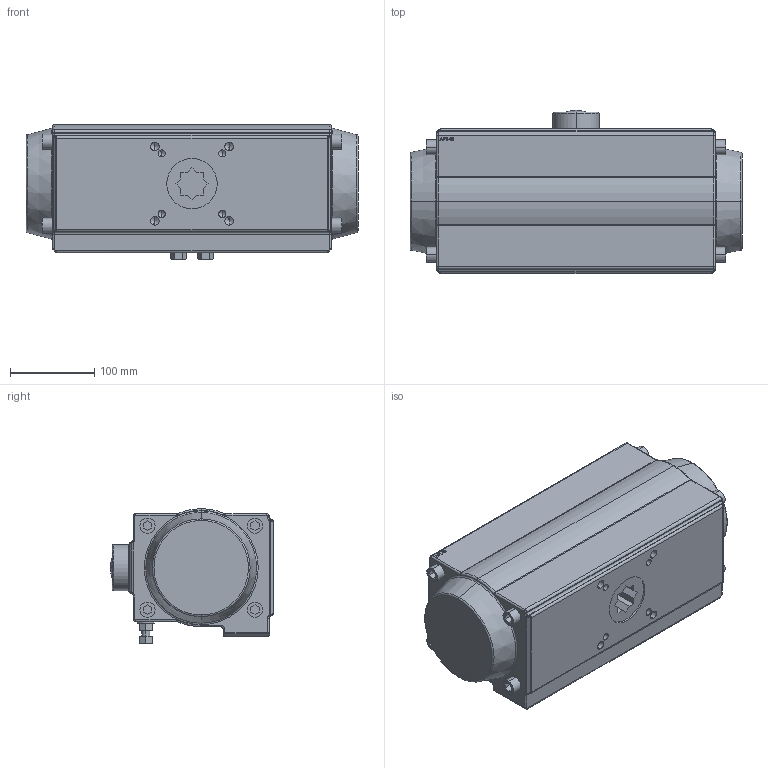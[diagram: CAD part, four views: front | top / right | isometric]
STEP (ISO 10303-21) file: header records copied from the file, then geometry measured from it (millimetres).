
FILE_DESCRIPTION (( 'STEP AP203' ), '1' );
FILE_NAME ('AP140.STEP', '2020-04-08T11:54:30', ( '' ), ( '' ), 'SwSTEP 2.0', 'SolidWorks 2017', '' );
FILE_SCHEMA (( 'CONFIG_CONTROL_DESIGN' ));
Length unit declared in the file: millimetre
Products named in the file (1): AP140
Bounding box: 395 x 194 x 160.2 mm (x, y, z)
Volume: 8474977.7 mm3; surface area: 292207.5 mm2
Topology: 1 solids, 1 shells, 503 faces, 1194 edges, 715 vertices
Faces by surface type: plane 213, cylinder 126, cone 68, bspline 44, torus 38, sphere 14
Entity records: 16177 total; most frequent: CARTESIAN_POINT 4921, ORIENTED_EDGE 2308, DIRECTION 2290, EDGE_CURVE 1154, AXIS2_PLACEMENT_3D 812, VERTEX_POINT 715, LINE 666, VECTOR 666
